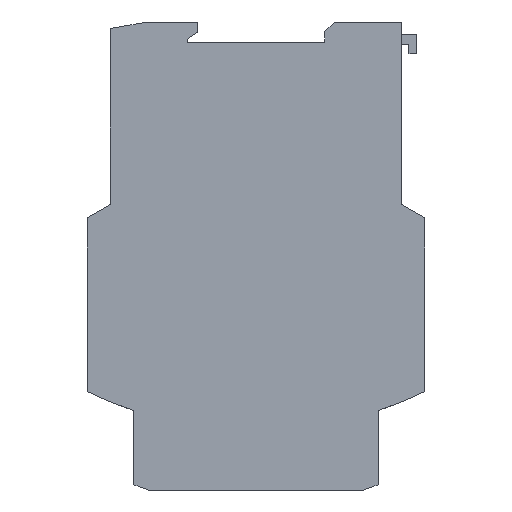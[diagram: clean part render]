
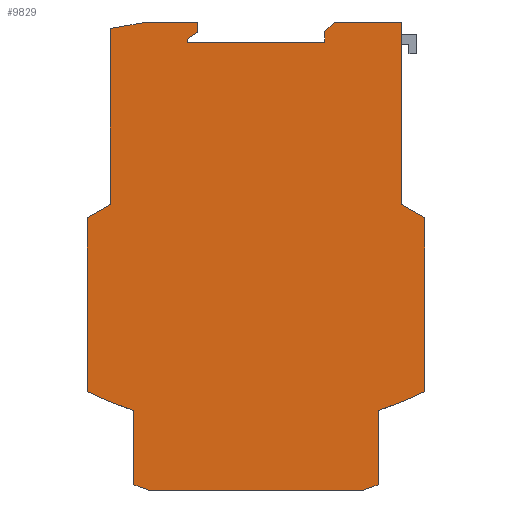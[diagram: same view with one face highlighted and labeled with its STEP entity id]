
A CAD part, front view. The second image highlights one B-rep face of the part: STEP entity #9829.
In plain terms, the highlighted planar face has unit normal (0, -1, 0).
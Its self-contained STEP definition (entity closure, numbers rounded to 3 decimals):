
#59=DIRECTION('',(1.,0.,0.));
#60=VECTOR('',#59,0.05);
#61=CARTESIAN_POINT('',(-43.5,-45.,56.));
#62=LINE('',#61,#60);
#67=DIRECTION('',(0.,0.,1.));
#68=VECTOR('',#67,10.665);
#69=CARTESIAN_POINT('',(-43.45,-45.,56.));
#70=LINE('',#69,#68);
#74=DIRECTION('',(0.866,0.,0.5));
#75=VECTOR('',#74,6.87);
#76=CARTESIAN_POINT('',(-43.45,-45.,66.665));
#77=LINE('',#76,#75);
#81=DIRECTION('',(0.,0.,1.));
#82=VECTOR('',#81,45.325);
#83=CARTESIAN_POINT('',(-37.5,-45.,70.1));
#84=LINE('',#83,#82);
#88=DIRECTION('',(0.985,0.,0.174));
#89=VECTOR('',#88,9.647);
#90=CARTESIAN_POINT('',(-37.5,-45.,115.425));
#91=LINE('',#90,#89);
#95=DIRECTION('',(1.,0.,0.));
#96=VECTOR('',#95,12.9);
#97=CARTESIAN_POINT('',(-28.,-45.,117.1));
#98=LINE('',#97,#96);
#102=DIRECTION('',(0.,0.,-1.));
#103=VECTOR('',#102,2.579);
#104=CARTESIAN_POINT('',(-15.1,-45.,117.1));
#105=LINE('',#104,#103);
#109=DIRECTION('',(-0.819,0.,-0.574));
#110=VECTOR('',#109,3.174);
#111=CARTESIAN_POINT('',(-15.1,-45.,114.521));
#112=LINE('',#111,#110);
#116=DIRECTION('',(0.,0.,-1.));
#117=VECTOR('',#116,0.8);
#118=CARTESIAN_POINT('',(-17.7,-45.,112.7));
#119=LINE('',#118,#117);
#123=DIRECTION('',(1.,0.,0.));
#124=VECTOR('',#123,35.4);
#125=CARTESIAN_POINT('',(-17.7,-45.,111.9));
#126=LINE('',#125,#124);
#130=DIRECTION('',(0.,0.,1.));
#131=VECTOR('',#130,2.7);
#132=CARTESIAN_POINT('',(17.7,-45.,111.9));
#133=LINE('',#132,#131);
#137=DIRECTION('',(0.707,0.,0.707));
#138=VECTOR('',#137,3.535);
#139=CARTESIAN_POINT('',(17.7,-45.,114.6));
#140=LINE('',#139,#138);
#144=DIRECTION('',(1.,0.,0.));
#145=VECTOR('',#144,17.3);
#146=CARTESIAN_POINT('',(20.2,-45.,117.1));
#147=LINE('',#146,#145);
#151=DIRECTION('',(0.,0.,-1.));
#152=VECTOR('',#151,47.);
#153=CARTESIAN_POINT('',(37.5,-45.,117.1));
#154=LINE('',#153,#152);
#158=DIRECTION('',(0.866,0.,-0.5));
#159=VECTOR('',#158,6.87);
#160=CARTESIAN_POINT('',(37.5,-45.,70.1));
#161=LINE('',#160,#159);
#165=DIRECTION('',(0.,0.,-1.));
#166=VECTOR('',#165,10.665);
#167=CARTESIAN_POINT('',(43.45,-45.,66.665));
#168=LINE('',#167,#166);
#172=DIRECTION('',(1.,0.,0.));
#173=VECTOR('',#172,0.05);
#174=CARTESIAN_POINT('',(43.45,-45.,56.));
#175=LINE('',#174,#173);
#179=DIRECTION('',(0.,0.,-1.));
#180=VECTOR('',#179,34.134);
#181=CARTESIAN_POINT('',(43.5,-45.,56.));
#182=LINE('',#181,#180);
#186=CARTESIAN_POINT('',(0.,-45.,111.909));
#187=DIRECTION('',(0.,1.,0.));
#188=DIRECTION('',(0.435,0.,-0.9));
#189=AXIS2_PLACEMENT_3D('',#186,#187,#188);
#194=DIRECTION('',(0.,0.,-1.));
#195=VECTOR('',#194,15.417);
#196=CARTESIAN_POINT('',(31.5,-45.,17.));
#197=LINE('',#196,#195);
#201=DIRECTION('',(0.94,0.,0.342));
#202=VECTOR('',#201,0.053);
#203=CARTESIAN_POINT('',(31.45,-45.,1.565));
#204=LINE('',#203,#202);
#208=DIRECTION('',(0.,0.,-1.));
#209=VECTOR('',#208,3.725);
#210=CARTESIAN_POINT('',(31.45,-45.,1.565));
#211=LINE('',#210,#209);
#215=DIRECTION('',(-0.94,0.,-0.342));
#216=VECTOR('',#215,3.919);
#217=CARTESIAN_POINT('',(31.45,-45.,-2.16));
#218=LINE('',#217,#216);
#222=DIRECTION('',(-1.,0.,0.));
#223=VECTOR('',#222,55.534);
#224=CARTESIAN_POINT('',(27.767,-45.,-3.5));
#225=LINE('',#224,#223);
#229=DIRECTION('',(-0.94,0.,0.342));
#230=VECTOR('',#229,3.919);
#231=CARTESIAN_POINT('',(-27.767,-45.,-3.5));
#232=LINE('',#231,#230);
#236=DIRECTION('',(0.,0.,1.));
#237=VECTOR('',#236,3.725);
#238=CARTESIAN_POINT('',(-31.45,-45.,-2.16));
#239=LINE('',#238,#237);
#243=DIRECTION('',(0.94,0.,-0.342));
#244=VECTOR('',#243,0.053);
#245=CARTESIAN_POINT('',(-31.5,-45.,1.583));
#246=LINE('',#245,#244);
#250=DIRECTION('',(0.,0.,1.));
#251=VECTOR('',#250,15.417);
#252=CARTESIAN_POINT('',(-31.5,-45.,1.583));
#253=LINE('',#252,#251);
#257=CARTESIAN_POINT('',(0.,-45.,111.909));
#258=DIRECTION('',(0.,1.,0.));
#259=DIRECTION('',(-0.315,0.,-0.949));
#260=AXIS2_PLACEMENT_3D('',#257,#258,#259);
#265=DIRECTION('',(0.,0.,1.));
#266=VECTOR('',#265,34.134);
#267=CARTESIAN_POINT('',(-43.5,-45.,21.866));
#268=LINE('',#267,#266);
#8394=CARTESIAN_POINT('',(43.5,-45.,56.));
#8395=CARTESIAN_POINT('',(43.5,-45.,21.866));
#8396=VERTEX_POINT('',#8394);
#8397=VERTEX_POINT('',#8395);
#8398=CARTESIAN_POINT('',(31.5,-45.,17.));
#8399=VERTEX_POINT('',#8398);
#8400=CARTESIAN_POINT('',(-31.5,-45.,17.));
#8401=CARTESIAN_POINT('',(-43.5,-45.,21.866));
#8402=VERTEX_POINT('',#8400);
#8403=VERTEX_POINT('',#8401);
#8404=CARTESIAN_POINT('',(-43.5,-45.,56.));
#8405=VERTEX_POINT('',#8404);
#8419=CARTESIAN_POINT('',(31.5,-45.,1.583));
#8421=VERTEX_POINT('',#8419);
#8423=CARTESIAN_POINT('',(-31.5,-45.,1.583));
#8425=VERTEX_POINT('',#8423);
#8426=CARTESIAN_POINT('',(-27.767,-45.,-3.5));
#8427=CARTESIAN_POINT('',(-31.45,-45.,-2.16));
#8428=VERTEX_POINT('',#8426);
#8429=VERTEX_POINT('',#8427);
#8430=CARTESIAN_POINT('',(31.45,-45.,-2.16));
#8431=CARTESIAN_POINT('',(27.767,-45.,-3.5));
#8432=VERTEX_POINT('',#8430);
#8433=VERTEX_POINT('',#8431);
#8442=CARTESIAN_POINT('',(17.7,-45.,111.9));
#8443=CARTESIAN_POINT('',(17.7,-45.,114.6));
#8444=VERTEX_POINT('',#8442);
#8445=VERTEX_POINT('',#8443);
#8446=CARTESIAN_POINT('',(20.2,-45.,117.1));
#8447=VERTEX_POINT('',#8446);
#8448=CARTESIAN_POINT('',(37.5,-45.,117.1));
#8449=VERTEX_POINT('',#8448);
#8450=CARTESIAN_POINT('',(37.5,-45.,70.1));
#8451=VERTEX_POINT('',#8450);
#8452=CARTESIAN_POINT('',(43.45,-45.,66.665));
#8453=VERTEX_POINT('',#8452);
#8454=CARTESIAN_POINT('',(-43.45,-45.,66.665));
#8455=CARTESIAN_POINT('',(-37.5,-45.,70.1));
#8456=VERTEX_POINT('',#8454);
#8457=VERTEX_POINT('',#8455);
#8458=CARTESIAN_POINT('',(-37.5,-45.,115.425));
#8459=VERTEX_POINT('',#8458);
#8460=CARTESIAN_POINT('',(-28.,-45.,117.1));
#8461=VERTEX_POINT('',#8460);
#8462=CARTESIAN_POINT('',(-15.1,-45.,117.1));
#8463=VERTEX_POINT('',#8462);
#8464=CARTESIAN_POINT('',(-15.1,-45.,114.521));
#8465=VERTEX_POINT('',#8464);
#8466=CARTESIAN_POINT('',(-17.7,-45.,112.7));
#8467=VERTEX_POINT('',#8466);
#8468=CARTESIAN_POINT('',(-17.7,-45.,111.9));
#8469=VERTEX_POINT('',#8468);
#8738=CARTESIAN_POINT('',(31.45,-45.,1.565));
#8740=VERTEX_POINT('',#8738);
#8742=CARTESIAN_POINT('',(-31.45,-45.,1.565));
#8744=VERTEX_POINT('',#8742);
#8746=CARTESIAN_POINT('',(-43.45,-45.,56.));
#8748=VERTEX_POINT('',#8746);
#8750=CARTESIAN_POINT('',(43.45,-45.,56.));
#8752=VERTEX_POINT('',#8750);
#9762=CARTESIAN_POINT('',(0.,-45.,0.));
#9763=DIRECTION('',(0.,1.,0.));
#9764=DIRECTION('',(1.,0.,0.));
#9765=AXIS2_PLACEMENT_3D('',#9762,#9763,#9764);
#9766=PLANE('',#9765);
#9768=ORIENTED_EDGE('',*,*,#9767,.T.);
#9770=ORIENTED_EDGE('',*,*,#9769,.T.);
#9772=ORIENTED_EDGE('',*,*,#9771,.T.);
#9774=ORIENTED_EDGE('',*,*,#9773,.T.);
#9776=ORIENTED_EDGE('',*,*,#9775,.T.);
#9778=ORIENTED_EDGE('',*,*,#9777,.T.);
#9780=ORIENTED_EDGE('',*,*,#9779,.T.);
#9782=ORIENTED_EDGE('',*,*,#9781,.T.);
#9784=ORIENTED_EDGE('',*,*,#9783,.T.);
#9786=ORIENTED_EDGE('',*,*,#9785,.T.);
#9788=ORIENTED_EDGE('',*,*,#9787,.T.);
#9790=ORIENTED_EDGE('',*,*,#9789,.T.);
#9792=ORIENTED_EDGE('',*,*,#9791,.T.);
#9794=ORIENTED_EDGE('',*,*,#9793,.T.);
#9796=ORIENTED_EDGE('',*,*,#9795,.T.);
#9798=ORIENTED_EDGE('',*,*,#9797,.T.);
#9800=ORIENTED_EDGE('',*,*,#9799,.T.);
#9802=ORIENTED_EDGE('',*,*,#9801,.T.);
#9804=ORIENTED_EDGE('',*,*,#9803,.T.);
#9806=ORIENTED_EDGE('',*,*,#9805,.T.);
#9808=ORIENTED_EDGE('',*,*,#9807,.F.);
#9810=ORIENTED_EDGE('',*,*,#9809,.T.);
#9812=ORIENTED_EDGE('',*,*,#9811,.T.);
#9814=ORIENTED_EDGE('',*,*,#9813,.T.);
#9816=ORIENTED_EDGE('',*,*,#9815,.T.);
#9818=ORIENTED_EDGE('',*,*,#9817,.T.);
#9820=ORIENTED_EDGE('',*,*,#9819,.F.);
#9822=ORIENTED_EDGE('',*,*,#9821,.T.);
#9824=ORIENTED_EDGE('',*,*,#9823,.T.);
#9826=ORIENTED_EDGE('',*,*,#9825,.T.);
#9827=EDGE_LOOP('',(#9768,#9770,#9772,#9774,#9776,#9778,#9780,#9782,#9784,#9786,
#9788,#9790,#9792,#9794,#9796,#9798,#9800,#9802,#9804,#9806,#9808,#9810,#9812,
#9814,#9816,#9818,#9820,#9822,#9824,#9826));
#9828=FACE_OUTER_BOUND('',#9827,.F.);
#9829=ADVANCED_FACE('',(#9828),#9766,.F.);
#190=CIRCLE('',#189,100.);
#261=CIRCLE('',#260,100.);
#9767=EDGE_CURVE('',#8405,#8748,#62,.T.);
#9769=EDGE_CURVE('',#8748,#8456,#70,.T.);
#9771=EDGE_CURVE('',#8456,#8457,#77,.T.);
#9773=EDGE_CURVE('',#8457,#8459,#84,.T.);
#9775=EDGE_CURVE('',#8459,#8461,#91,.T.);
#9777=EDGE_CURVE('',#8461,#8463,#98,.T.);
#9779=EDGE_CURVE('',#8463,#8465,#105,.T.);
#9781=EDGE_CURVE('',#8465,#8467,#112,.T.);
#9783=EDGE_CURVE('',#8467,#8469,#119,.T.);
#9785=EDGE_CURVE('',#8469,#8444,#126,.T.);
#9787=EDGE_CURVE('',#8444,#8445,#133,.T.);
#9789=EDGE_CURVE('',#8445,#8447,#140,.T.);
#9791=EDGE_CURVE('',#8447,#8449,#147,.T.);
#9793=EDGE_CURVE('',#8449,#8451,#154,.T.);
#9795=EDGE_CURVE('',#8451,#8453,#161,.T.);
#9797=EDGE_CURVE('',#8453,#8752,#168,.T.);
#9799=EDGE_CURVE('',#8752,#8396,#175,.T.);
#9801=EDGE_CURVE('',#8396,#8397,#182,.T.);
#9803=EDGE_CURVE('',#8397,#8399,#190,.T.);
#9805=EDGE_CURVE('',#8399,#8421,#197,.T.);
#9807=EDGE_CURVE('',#8740,#8421,#204,.T.);
#9809=EDGE_CURVE('',#8740,#8432,#211,.T.);
#9811=EDGE_CURVE('',#8432,#8433,#218,.T.);
#9813=EDGE_CURVE('',#8433,#8428,#225,.T.);
#9815=EDGE_CURVE('',#8428,#8429,#232,.T.);
#9817=EDGE_CURVE('',#8429,#8744,#239,.T.);
#9819=EDGE_CURVE('',#8425,#8744,#246,.T.);
#9821=EDGE_CURVE('',#8425,#8402,#253,.T.);
#9823=EDGE_CURVE('',#8402,#8403,#261,.T.);
#9825=EDGE_CURVE('',#8403,#8405,#268,.T.);
